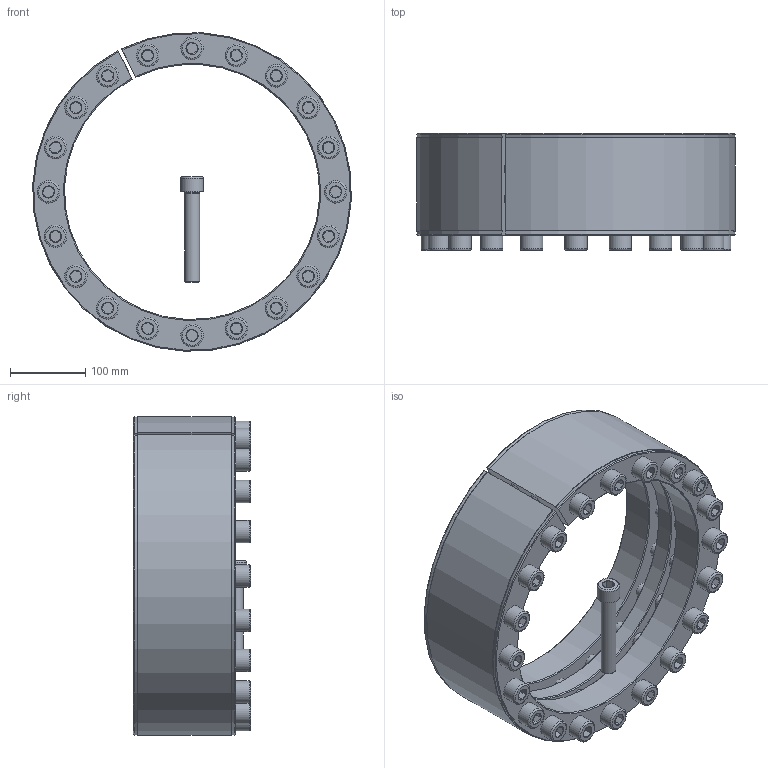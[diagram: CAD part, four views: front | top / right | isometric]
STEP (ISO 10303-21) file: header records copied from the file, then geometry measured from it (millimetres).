
FILE_DESCRIPTION( ( 'Unknown' ), '1' );
FILE_NAME( 'C:/Users/Frank/Eigene Daten/CAD/Solid Edge/KBK Karpstein/KBS Layout Baureihen/KBS 18/KBS - 340 x 425.stp', 'Unknown', ( 'Unknown' ), ( 'Unknown' ), 'XStep 1.0', 'Unknown', ' ' );
FILE_SCHEMA( ( 'automotive_design' ) );
Length unit declared in the file: millimetre
Products named in the file (3): Assem1; ISO EN DIN 4762 M20x120; KBS 18 - 340 x 425
Bounding box: 424.46 x 156 x 424.31 mm (x, y, z)
Volume: 11218840 mm3; surface area: 1614105.8 mm2
Topology: 23 solids, 23 shells, 697 faces, 1459 edges, 892 vertices
Faces by surface type: plane 272, cylinder 212, cone 171, torus 42
Full cylindrical faces by diameter (mm): 17.294 x40, 18 x21, 20 x42, 22 x80, 30 x21
Entity records: 4346 total; most frequent: CARTESIAN_POINT 689, DIRECTION 624, ORIENTED_EDGE 454, EDGE_LOOP 302, AXIS2_PLACEMENT_3D 294, EDGE_CURVE 227, VERTEX_POINT 191, FACE_OUTER_BOUND 177
